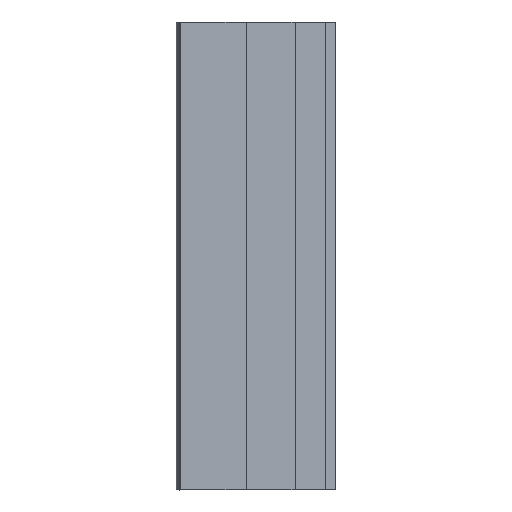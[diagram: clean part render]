
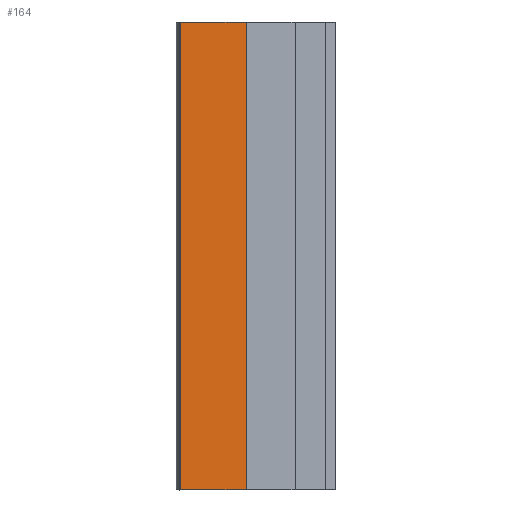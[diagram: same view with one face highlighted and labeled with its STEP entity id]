
A CAD part, top view. The second image highlights one B-rep face of the part: STEP entity #164.
In plain terms, the highlighted planar face has unit normal (0.06, 0, 0.998).
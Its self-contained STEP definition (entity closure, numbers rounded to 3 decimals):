
#36=PLANE('',#451);
#60=LINE('',#620,#104);
#63=LINE('',#626,#107);
#64=LINE('',#628,#108);
#65=LINE('',#630,#109);
#104=VECTOR('',#500,1.);
#107=VECTOR('',#505,1.);
#108=VECTOR('',#506,1.);
#109=VECTOR('',#507,1.);
#164=ADVANCED_FACE('',(#188),#36,.F.);
#188=FACE_OUTER_BOUND('',#208,.T.);
#208=EDGE_LOOP('',(#249,#250,#251,#252));
#249=ORIENTED_EDGE('',*,*,#394,.T.);
#250=ORIENTED_EDGE('',*,*,#395,.F.);
#251=ORIENTED_EDGE('',*,*,#396,.F.);
#252=ORIENTED_EDGE('',*,*,#391,.T.);
#353=VERTEX_POINT('',#619);
#354=VERTEX_POINT('',#621);
#356=VERTEX_POINT('',#627);
#357=VERTEX_POINT('',#629);
#391=EDGE_CURVE('',#354,#353,#60,.T.);
#394=EDGE_CURVE('',#353,#356,#63,.T.);
#395=EDGE_CURVE('',#357,#356,#64,.T.);
#396=EDGE_CURVE('',#354,#357,#65,.T.);
#451=AXIS2_PLACEMENT_3D('',#631,#508,#509);
#500=DIRECTION('',(0.,-1.,0.));
#505=DIRECTION('',(0.998,0.,-0.06));
#506=DIRECTION('',(0.,-1.,0.));
#507=DIRECTION('',(0.998,0.,-0.06));
#508=DIRECTION('',(-0.06,0.,-0.998));
#509=DIRECTION('',(-0.998,0.,0.06));
#619=CARTESIAN_POINT('',(834.565,0.,11.161));
#620=CARTESIAN_POINT('',(834.565,500.,11.161));
#621=CARTESIAN_POINT('',(834.565,500.,11.161));
#626=CARTESIAN_POINT('',(834.565,0.,11.161));
#627=CARTESIAN_POINT('',(904.508,0.,6.957));
#628=CARTESIAN_POINT('',(904.508,500.,6.957));
#629=CARTESIAN_POINT('',(904.508,500.,6.957));
#630=CARTESIAN_POINT('',(834.565,500.,11.161));
#631=CARTESIAN_POINT('',(834.565,500.,11.161));
